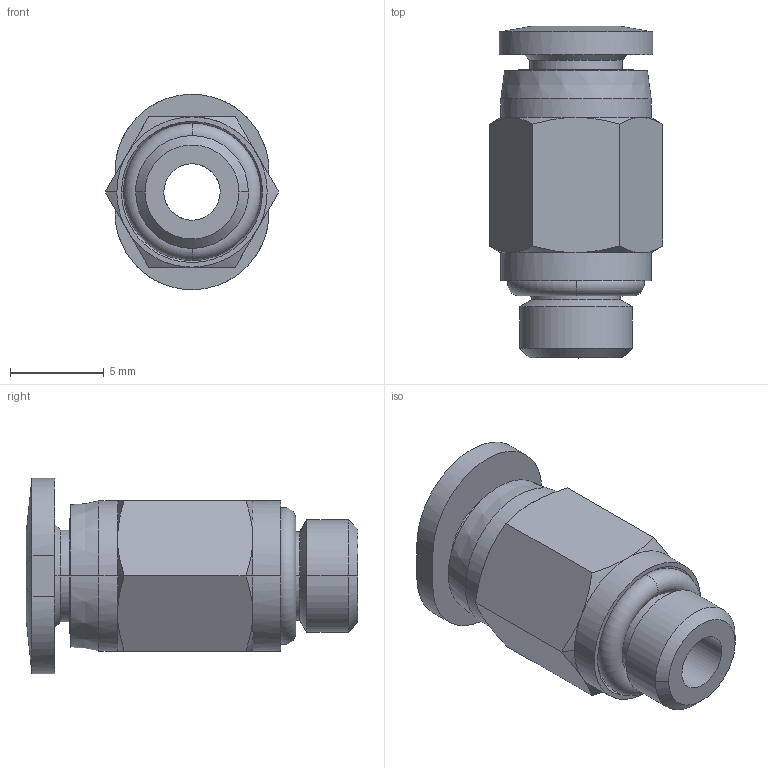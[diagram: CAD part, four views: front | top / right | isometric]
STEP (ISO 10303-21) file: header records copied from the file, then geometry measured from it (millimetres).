
FILE_DESCRIPTION (( 'STEP AP203' ), '1' );
FILE_NAME ('FMH04-M6.STEP', '2020-07-07T10:50:39', ( '' ), ( '' ), 'SwSTEP 2.0', 'SolidWorks 2019', '' );
FILE_SCHEMA (( 'CONFIG_CONTROL_DESIGN' ));
Length unit declared in the file: millimetre
Products named in the file (1): FMH04-M6
Bounding box: 9.24 x 17.67 x 10.4 mm (x, y, z)
Surface area: 921.9 mm2 (no closed solid volume)
Topology: 0 solids, 4 shells, 71 faces, 160 edges, 98 vertices
Faces by surface type: cone 24, cylinder 20, plane 17, torus 6, bspline 4
Entity records: 3309 total; most frequent: CARTESIAN_POINT 1919, ORIENTED_EDGE 304, DIRECTION 178, EDGE_CURVE 160, B_SPLINE_CURVE_WITH_KNOTS 124, VERTEX_POINT 98, EDGE_LOOP 80, AXIS2_PLACEMENT_3D 74
